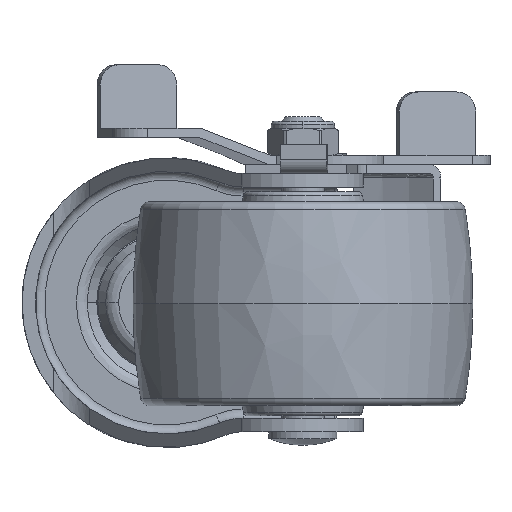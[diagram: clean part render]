
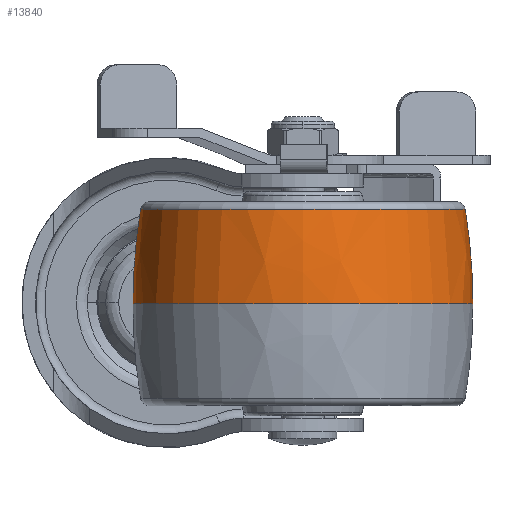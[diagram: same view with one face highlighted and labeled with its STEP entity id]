
A CAD part, front view. The second image highlights one B-rep face of the part: STEP entity #13840.
In plain terms, the highlighted free-form (B-spline) face has degree [3, 3] with [7, 4] control points.
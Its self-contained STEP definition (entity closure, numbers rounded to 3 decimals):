
#4113=CARTESIAN_POINT('',(0.,-92.5,
-0.001));
#4114=DIRECTION('',(0.,0.,-1.));
#4115=DIRECTION('',(-0.16,0.987,0.));
#4116=AXIS2_PLACEMENT_3D('',#4113,#4114,#4115);
#4123=CARTESIAN_POINT('',(-20.82,0.,0.));
#4124=DIRECTION('',(-1.,0.,0.));
#4125=DIRECTION('',(0.,1.,0.));
#4126=AXIS2_PLACEMENT_3D('',#4123,#4124,#4125);
#4128=CARTESIAN_POINT('',(0.,92.5,
0.001));
#4129=DIRECTION('',(0.,0.,1.));
#4130=DIRECTION('',(-0.16,-0.987,0.));
#4131=AXIS2_PLACEMENT_3D('',#4128,#4129,#4130);
#4133=CARTESIAN_POINT('',(0.,0.,0.));
#4134=DIRECTION('',(1.,0.,0.));
#4135=DIRECTION('',(0.,-1.,0.));
#4136=AXIS2_PLACEMENT_3D('',#4133,#4134,#4135);
#12388=CARTESIAN_POINT('',(0.,37.5,
0.));
#12389=VERTEX_POINT('',#12388);
#12390=CARTESIAN_POINT('',(0.,-37.5,
0.));
#12391=VERTEX_POINT('',#12390);
#12392=CARTESIAN_POINT('',(-20.82,35.822,
0.));
#12393=VERTEX_POINT('',#12392);
#12394=CARTESIAN_POINT('',(-20.82,-35.822,
0.));
#12395=VERTEX_POINT('',#12394);
#13804=CARTESIAN_POINT('',(-21.233,-35.684,
2.245));
#13805=CARTESIAN_POINT('',(-14.073,-36.867,
2.319));
#13806=CARTESIAN_POINT('',(-6.839,-37.449,
2.356));
#13807=CARTESIAN_POINT('',(0.418,-37.425,
2.354));
#13808=CARTESIAN_POINT('',(-21.233,-37.065,
-19.715));
#13809=CARTESIAN_POINT('',(-14.073,-38.294,
-20.368));
#13810=CARTESIAN_POINT('',(-6.839,-38.898,
-20.69));
#13811=CARTESIAN_POINT('',(0.418,-38.874,
-20.677));
#13812=CARTESIAN_POINT('',(-21.233,-22.003,
-35.754));
#13813=CARTESIAN_POINT('',(-14.073,-22.732,
-36.94));
#13814=CARTESIAN_POINT('',(-6.839,-23.091,
-37.523));
#13815=CARTESIAN_POINT('',(0.418,-23.077,
-37.499));
#13816=CARTESIAN_POINT('',(-21.233,0.,
-35.754));
#13817=CARTESIAN_POINT('',(-14.073,0.,
-36.94));
#13818=CARTESIAN_POINT('',(-6.839,0.,
-37.523));
#13819=CARTESIAN_POINT('',(0.418,0.,
-37.499));
#13820=CARTESIAN_POINT('',(-21.233,22.003,
-35.754));
#13821=CARTESIAN_POINT('',(-14.073,22.732,
-36.94));
#13822=CARTESIAN_POINT('',(-6.839,23.091,
-37.523));
#13823=CARTESIAN_POINT('',(0.418,23.077,
-37.499));
#13824=CARTESIAN_POINT('',(-21.233,37.065,
-19.715));
#13825=CARTESIAN_POINT('',(-14.073,38.294,
-20.368));
#13826=CARTESIAN_POINT('',(-6.839,38.898,
-20.69));
#13827=CARTESIAN_POINT('',(0.418,38.874,
-20.677));
#13828=CARTESIAN_POINT('',(-21.233,35.684,
2.245));
#13829=CARTESIAN_POINT('',(-14.073,36.867,
2.319));
#13830=CARTESIAN_POINT('',(-6.839,37.449,
2.356));
#13831=CARTESIAN_POINT('',(0.418,37.425,
2.354));
#13832=(BOUNDED_SURFACE()B_SPLINE_SURFACE(3,3,((#13804,#13805,#13806,#13807),(
#13808,#13809,#13810,#13811),(#13812,#13813,#13814,#13815),(#13816,#13817,
#13818,#13819),(#13820,#13821,#13822,#13823),(#13824,#13825,#13826,#13827),(
#13828,#13829,#13830,#13831)),.UNSPECIFIED.,.F.,.F.,.F.)B_SPLINE_SURFACE_WITH_KNOTS((4,3,4),(4,4),(0.,1.,2.),(0.,1.),.UNSPECIFIED.)GEOMETRIC_REPRESENTATION_ITEM()RATIONAL_B_SPLINE_SURFACE(((1.189,1.187,
1.187,1.189),(0.939,0.937,
0.937,0.939),(0.939,0.937,
0.937,0.939),(1.189,1.187,
1.187,1.189),(0.939,0.937,
0.937,0.939),(0.939,0.937,
0.937,0.939),(1.189,1.187,
1.187,1.189)))REPRESENTATION_ITEM('')SURFACE());
#13833=ORIENTED_EDGE('',*,*,#13794,.F.);
#13835=ORIENTED_EDGE('',*,*,#13834,.T.);
#13836=ORIENTED_EDGE('',*,*,#13797,.T.);
#13837=ORIENTED_EDGE('',*,*,#13720,.T.);
#13838=EDGE_LOOP('',(#13833,#13835,#13836,#13837));
#13839=FACE_OUTER_BOUND('',#13838,.F.);
#4117=CIRCLE('',#4116,130.);
#4127=CIRCLE('',#4126,35.822);
#4132=CIRCLE('',#4131,130.);
#4137=CIRCLE('',#4136,37.5);
#13720=EDGE_CURVE('',#12391,#12389,#4137,.T.);
#13794=EDGE_CURVE('',#12393,#12389,#4117,.T.);
#13797=EDGE_CURVE('',#12395,#12391,#4132,.T.);
#13834=EDGE_CURVE('',#12393,#12395,#4127,.T.);
#13840=ADVANCED_FACE('',(#13839),#13832,.T.);
